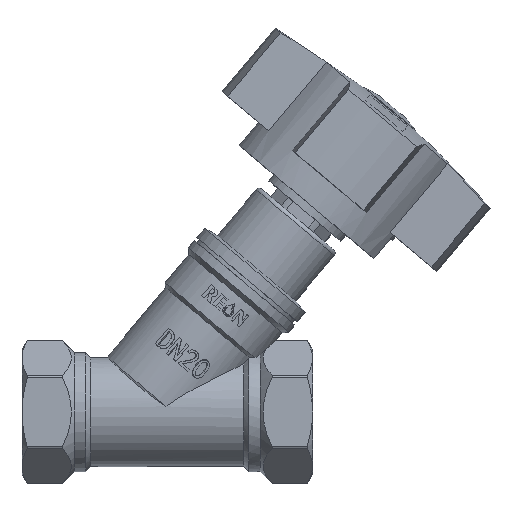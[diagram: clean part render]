
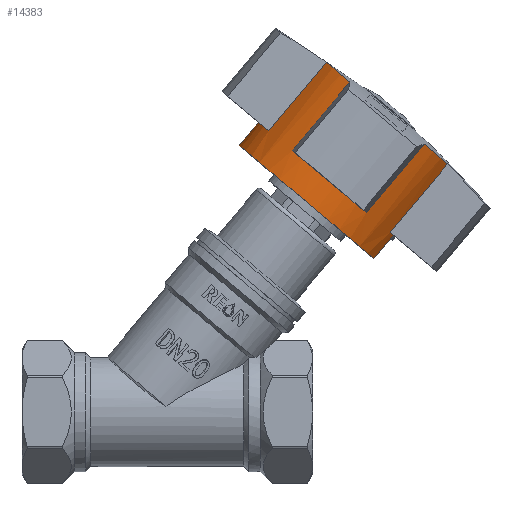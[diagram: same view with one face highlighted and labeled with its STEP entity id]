
A CAD part, top view. The second image highlights one B-rep face of the part: STEP entity #14383.
In plain terms, the highlighted cylindrical face has radius 23 mm (diameter 46 mm), a partial arc.
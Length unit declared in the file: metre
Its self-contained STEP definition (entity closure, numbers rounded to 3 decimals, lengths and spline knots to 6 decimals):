
#1864=LINE('',#48765,#2713);
#1865=LINE('',#48768,#2714);
#1866=LINE('',#48769,#2715);
#1867=LINE('',#48770,#2716);
#1868=LINE('',#48771,#2717);
#1869=LINE('',#48772,#2718);
#1870=LINE('',#48773,#2719);
#1871=LINE('',#48774,#2720);
#1872=LINE('',#48775,#2721);
#1873=LINE('',#48776,#2722);
#2713=VECTOR('',#18675,1.);
#2714=VECTOR('',#18678,1.);
#2715=VECTOR('',#18679,1.);
#2716=VECTOR('',#18680,1.);
#2717=VECTOR('',#18681,1.);
#2718=VECTOR('',#18682,1.);
#2719=VECTOR('',#18683,1.);
#2720=VECTOR('',#18684,1.);
#2721=VECTOR('',#18685,1.);
#2722=VECTOR('',#18686,1.);
#3273=CYLINDRICAL_SURFACE('',#15689,0.023);
#3965=FACE_OUTER_BOUND('',#4885,.T.);
#4885=EDGE_LOOP('',(#12522,#12523,#12524,#12525,#12526,#12527,#12528,#12529,
#12530,#12531,#12532,#12533,#12534,#12535,#12536,#12537,#12538,#12539,#12540,
#12541));
#5551=CIRCLE('',#15560,0.023);
#5555=CIRCLE('',#15564,0.023);
#5559=CIRCLE('',#15568,0.023);
#5563=CIRCLE('',#15572,0.023);
#5641=CIRCLE('',#15671,0.023);
#5644=CIRCLE('',#15675,0.023);
#5647=CIRCLE('',#15679,0.023);
#5648=CIRCLE('',#15680,0.023);
#5652=CIRCLE('',#15686,0.023);
#5655=CIRCLE('',#15690,0.023);
#6774=VERTEX_POINT('',#48417);
#6775=VERTEX_POINT('',#48419);
#6778=VERTEX_POINT('',#48425);
#6779=VERTEX_POINT('',#48427);
#6782=VERTEX_POINT('',#48433);
#6783=VERTEX_POINT('',#48435);
#6786=VERTEX_POINT('',#48441);
#6787=VERTEX_POINT('',#48443);
#6902=VERTEX_POINT('',#48697);
#6903=VERTEX_POINT('',#48699);
#6908=VERTEX_POINT('',#48711);
#6909=VERTEX_POINT('',#48713);
#6914=VERTEX_POINT('',#48725);
#6915=VERTEX_POINT('',#48727);
#6916=VERTEX_POINT('',#48730);
#6917=VERTEX_POINT('',#48732);
#6924=VERTEX_POINT('',#48750);
#6925=VERTEX_POINT('',#48752);
#6930=VERTEX_POINT('',#48764);
#6931=VERTEX_POINT('',#48766);
#8714=EDGE_CURVE('',#6775,#6774,#5551,.T.);
#8718=EDGE_CURVE('',#6779,#6778,#5555,.T.);
#8722=EDGE_CURVE('',#6783,#6782,#5559,.T.);
#8726=EDGE_CURVE('',#6787,#6786,#5563,.T.);
#8845=EDGE_CURVE('',#6903,#6902,#5641,.T.);
#8852=EDGE_CURVE('',#6909,#6908,#5644,.T.);
#8859=EDGE_CURVE('',#6915,#6914,#5647,.T.);
#8862=EDGE_CURVE('',#6917,#6916,#5648,.T.);
#8873=EDGE_CURVE('',#6924,#6925,#5652,.T.);
#8878=EDGE_CURVE('',#6930,#6914,#1864,.T.);
#8879=EDGE_CURVE('',#6931,#6930,#5655,.T.);
#8880=EDGE_CURVE('',#6917,#6931,#1865,.T.);
#8881=EDGE_CURVE('',#6787,#6916,#1866,.T.);
#8882=EDGE_CURVE('',#6786,#6909,#1867,.T.);
#8883=EDGE_CURVE('',#6783,#6908,#1868,.T.);
#8884=EDGE_CURVE('',#6782,#6903,#1869,.T.);
#8885=EDGE_CURVE('',#6779,#6902,#1870,.T.);
#8886=EDGE_CURVE('',#6778,#6924,#1871,.T.);
#8887=EDGE_CURVE('',#6775,#6925,#1872,.T.);
#8888=EDGE_CURVE('',#6774,#6915,#1873,.T.);
#12522=ORIENTED_EDGE('',*,*,#8878,.F.);
#12523=ORIENTED_EDGE('',*,*,#8879,.F.);
#12524=ORIENTED_EDGE('',*,*,#8880,.F.);
#12525=ORIENTED_EDGE('',*,*,#8862,.T.);
#12526=ORIENTED_EDGE('',*,*,#8881,.F.);
#12527=ORIENTED_EDGE('',*,*,#8726,.T.);
#12528=ORIENTED_EDGE('',*,*,#8882,.T.);
#12529=ORIENTED_EDGE('',*,*,#8852,.T.);
#12530=ORIENTED_EDGE('',*,*,#8883,.F.);
#12531=ORIENTED_EDGE('',*,*,#8722,.T.);
#12532=ORIENTED_EDGE('',*,*,#8884,.T.);
#12533=ORIENTED_EDGE('',*,*,#8845,.T.);
#12534=ORIENTED_EDGE('',*,*,#8885,.F.);
#12535=ORIENTED_EDGE('',*,*,#8718,.T.);
#12536=ORIENTED_EDGE('',*,*,#8886,.T.);
#12537=ORIENTED_EDGE('',*,*,#8873,.T.);
#12538=ORIENTED_EDGE('',*,*,#8887,.F.);
#12539=ORIENTED_EDGE('',*,*,#8714,.T.);
#12540=ORIENTED_EDGE('',*,*,#8888,.T.);
#12541=ORIENTED_EDGE('',*,*,#8859,.T.);
#14383=ADVANCED_FACE('',(#3965),#3273,.T.);
#15560=AXIS2_PLACEMENT_3D('',#48420,#18355,#18356);
#15564=AXIS2_PLACEMENT_3D('',#48428,#18363,#18364);
#15568=AXIS2_PLACEMENT_3D('',#48436,#18371,#18372);
#15572=AXIS2_PLACEMENT_3D('',#48444,#18379,#18380);
#15671=AXIS2_PLACEMENT_3D('',#48700,#18618,#18619);
#15675=AXIS2_PLACEMENT_3D('',#48714,#18630,#18631);
#15679=AXIS2_PLACEMENT_3D('',#48728,#18642,#18643);
#15680=AXIS2_PLACEMENT_3D('',#48733,#18646,#18647);
#15686=AXIS2_PLACEMENT_3D('',#48754,#18665,#18666);
#15689=AXIS2_PLACEMENT_3D('',#48763,#18673,#18674);
#15690=AXIS2_PLACEMENT_3D('',#48767,#18676,#18677);
#18355=DIRECTION('center_axis',(-0.643,-0.766,0.));
#18356=DIRECTION('ref_axis',(0.,0.,
-1.));
#18363=DIRECTION('center_axis',(-0.643,-0.766,0.));
#18364=DIRECTION('ref_axis',(0.766,-0.643,0.));
#18371=DIRECTION('center_axis',(-0.643,-0.766,0.));
#18372=DIRECTION('ref_axis',(0.766,-0.643,0.));
#18379=DIRECTION('center_axis',(-0.643,-0.766,0.));
#18380=DIRECTION('ref_axis',(0.,0.,
-1.));
#18618=DIRECTION('center_axis',(-0.643,-0.766,0.));
#18619=DIRECTION('ref_axis',(0.766,-0.643,0.));
#18630=DIRECTION('center_axis',(-0.643,-0.766,0.));
#18631=DIRECTION('ref_axis',(0.766,-0.643,0.));
#18642=DIRECTION('center_axis',(-0.643,-0.766,0.));
#18643=DIRECTION('ref_axis',(0.766,-0.643,0.));
#18646=DIRECTION('center_axis',(-0.643,-0.766,0.));
#18647=DIRECTION('ref_axis',(0.766,-0.643,0.));
#18665=DIRECTION('center_axis',(-0.643,-0.766,0.));
#18666=DIRECTION('ref_axis',(0.766,-0.643,0.));
#18673=DIRECTION('center_axis',(-0.643,-0.766,0.));
#18674=DIRECTION('ref_axis',(-0.766,0.643,0.));
#18675=DIRECTION('',(0.643,0.766,0.));
#18676=DIRECTION('center_axis',(-0.643,-0.766,0.));
#18677=DIRECTION('ref_axis',(0.766,-0.643,0.));
#18678=DIRECTION('',(-0.643,-0.766,0.));
#18679=DIRECTION('',(-0.643,-0.766,0.));
#18680=DIRECTION('',(-0.643,-0.766,0.));
#18681=DIRECTION('',(-0.643,-0.766,0.));
#18682=DIRECTION('',(-0.643,-0.766,0.));
#18683=DIRECTION('',(-0.643,-0.766,0.));
#18684=DIRECTION('',(-0.643,-0.766,0.));
#18685=DIRECTION('',(-0.643,-0.766,0.));
#18686=DIRECTION('',(-0.643,-0.766,0.));
#48417=CARTESIAN_POINT('',(0.069486,0.061491,-0.012));
#48419=CARTESIAN_POINT('',(0.063647,0.06639,-0.019621));
#48420=CARTESIAN_POINT('Origin',(0.054455,0.074104,
0.));
#48425=CARTESIAN_POINT('',(0.045262,0.081817,-0.019621));
#48427=CARTESIAN_POINT('',(0.039424,0.086716,-0.012));
#48428=CARTESIAN_POINT('Origin',(0.054455,0.074104,
0.));
#48433=CARTESIAN_POINT('',(0.039424,0.086716,0.012));
#48435=CARTESIAN_POINT('',(0.045262,0.081817,0.019621));
#48436=CARTESIAN_POINT('Origin',(0.054455,0.074104,
0.));
#48441=CARTESIAN_POINT('',(0.063647,0.06639,0.019621));
#48443=CARTESIAN_POINT('',(0.069486,0.061491,0.012));
#48444=CARTESIAN_POINT('Origin',(0.054455,0.074104,
0.));
#48697=CARTESIAN_POINT('',(0.02516,0.069717,-0.012));
#48699=CARTESIAN_POINT('',(0.02516,0.069717,0.012));
#48700=CARTESIAN_POINT('Origin',(0.04019,0.057104,
0.));
#48711=CARTESIAN_POINT('',(0.030998,0.064818,0.019621));
#48713=CARTESIAN_POINT('',(0.049383,0.049391,0.019621));
#48714=CARTESIAN_POINT('Origin',(0.04019,0.057104,
0.));
#48725=CARTESIAN_POINT('',(0.056057,0.043791,-0.01));
#48727=CARTESIAN_POINT('',(0.055221,0.044492,-0.012));
#48728=CARTESIAN_POINT('Origin',(0.04019,0.057104,
0.));
#48730=CARTESIAN_POINT('',(0.055221,0.044492,0.012));
#48732=CARTESIAN_POINT('',(0.056057,0.043791,0.01));
#48733=CARTESIAN_POINT('Origin',(0.04019,0.057104,
0.));
#48750=CARTESIAN_POINT('',(0.030998,0.064818,-0.019621));
#48752=CARTESIAN_POINT('',(0.049383,0.049391,-0.019621));
#48754=CARTESIAN_POINT('Origin',(0.04019,0.057104,
0.));
#48763=CARTESIAN_POINT('Origin',(0.034084,0.049827,
0.));
#48764=CARTESIAN_POINT('',(0.051236,0.038045,-0.01));
#48765=CARTESIAN_POINT('',(0.049951,0.036513,-0.01));
#48766=CARTESIAN_POINT('',(0.051236,0.038045,0.01));
#48767=CARTESIAN_POINT('Origin',(0.03537,0.051359,
0.));
#48768=CARTESIAN_POINT('',(0.049951,0.036513,0.01));
#48769=CARTESIAN_POINT('',(0.070327,0.062494,0.012));
#48770=CARTESIAN_POINT('',(0.064488,0.067393,0.019621));
#48771=CARTESIAN_POINT('',(0.046103,0.08282,0.019621));
#48772=CARTESIAN_POINT('',(0.040265,0.087719,0.012));
#48773=CARTESIAN_POINT('',(0.040265,0.087719,-0.012));
#48774=CARTESIAN_POINT('',(0.046103,0.08282,-0.019621));
#48775=CARTESIAN_POINT('',(0.064488,0.067393,-0.019621));
#48776=CARTESIAN_POINT('',(0.070327,0.062494,-0.012));
